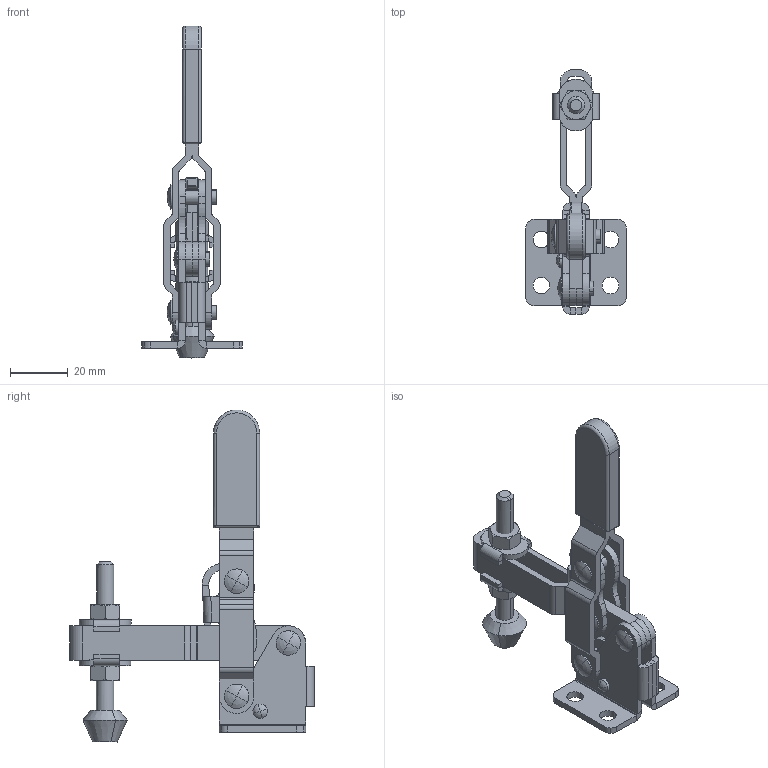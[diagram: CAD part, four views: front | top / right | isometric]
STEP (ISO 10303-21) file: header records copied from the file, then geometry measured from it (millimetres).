
FILE_DESCRIPTION(('CATIA V5 STEP Exchange'),'2;1');
FILE_NAME('D:\카달로그 (2)\NEW TOGGLE CADALOG\HomePage\1.Vertical\KJF-010\KJF-010-11F\010-11F\KJF_010_11F.stp','2017-06-20T07:28:18+00:00',('none'),('none'),'CATIA Version 5 Release 19 SP 6 (IN-10)','CATIA V5 STEP AP214','none');
FILE_SCHEMA(('AUTOMOTIVE_DESIGN { 1 0 10303 214 1 1 1 1 }'));
Length unit declared in the file: millimetre
Products named in the file (1): KJF-010-11F
Bounding box: 35 x 85 x 115.41 mm (x, y, z)
Volume: 25733.2 mm3; surface area: 22429.1 mm2
Topology: 13 solids, 13 shells, 413 faces, 1014 edges, 609 vertices
Faces by surface type: plane 214, cylinder 154, sphere 20, cone 17, bspline 4, torus 4
Entity records: 12702 total; most frequent: CARTESIAN_POINT 3257, ORIENTED_EDGE 1976, DIRECTION 1649, EDGE_CURVE 988, AXIS2_PLACEMENT_3D 672, VERTEX_POINT 609, VECTOR 594, LINE 594
